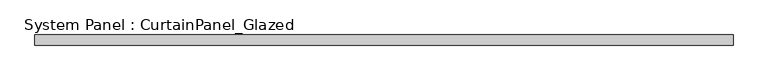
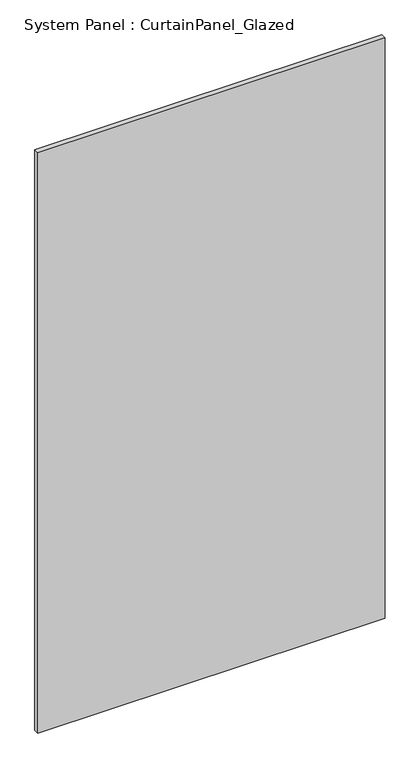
"""IFC4 building model written with IfcOpenShell, lengths in millimetres: plate geometry, System Panel : CurtainPanel_Glazed."""

from ifc_helpers import new_model, si_unit, origin, origin_with_axes, place, context, project, spatial, polyline, outline, extrude, source, transform, mapped, element, save


def system_panel_curtainpanel_glazed_8ab64ea0(model_context):
    return source(origin(), model_context, "Body", "SweptSolid", [
        extrude(outline(polyline([(828.0555557, -12.5), (-828.0555557, -12.5), (-828.0555557, 12.5), (828.0555557, 12.5), (828.0555557, -12.5)])), origin_with_axes(), (0.0, 0.0, 1.0), 2925.0),
    ])


if __name__ == "__main__":
    model = new_model("IFC4")
    model_context = context("Model", 3, world=origin())
    ifc_project = project(units=[si_unit("LENGTHUNIT", "METRE", prefix="MILLI")], contexts=[model_context])
    site = spatial("IfcSite", under=ifc_project)
    building = spatial("IfcBuilding", under=site)
    placement = place(None, origin())
    system_panel_curtainpanel_glazed_shape = system_panel_curtainpanel_glazed_8ab64ea0(model_context)
    element("IfcPlate", 1, ObjectType="System Panel : CurtainPanel_Glazed", at=placement, inside=building, context=model_context, shape_type="MappedRepresentation", body=[
        mapped(system_panel_curtainpanel_glazed_shape, transform((0.0, 0.0, 0.0), x_axis=(1.0, 0.0, 0.0), y_axis=(0.0, 1.0, 0.0), z_axis=(0.0, 0.0, 1.0))),
    ])
    save(model, "model.ifc")
